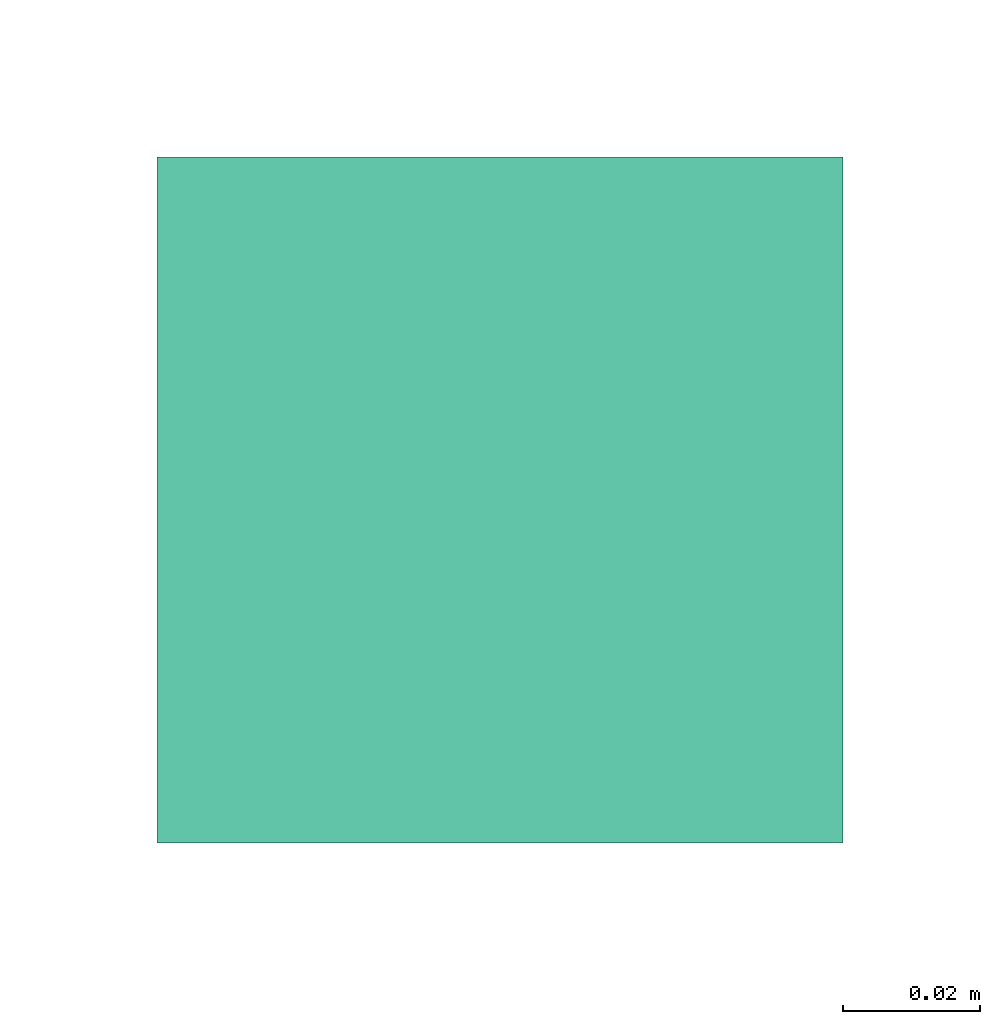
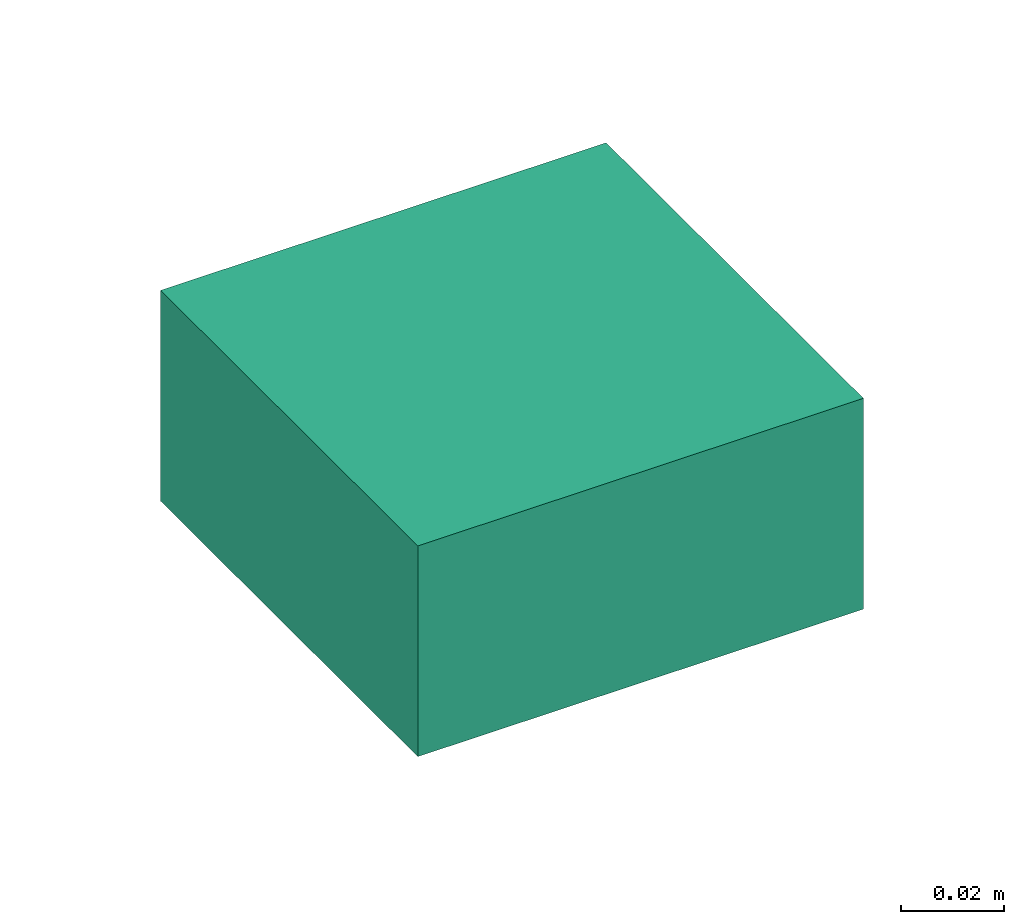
# One storey, part 6 of 14: 1 flow terminal.
"""IFC2X3 building model written with IfcOpenShell, lengths in millimetres."""

from ifc_helpers import new_model, entity, si_unit, converted_unit, derived_unit, direction, frame, origin_with_axes, place, context, subcontext, project, spatial, open_shell, surface_model, source, transform, mapped, type_object, element, save


model = new_model("IFC2X3")

# Units and contexts
model_context = context("Model", 3, precision=0.01, world=frame((0.0, 4.29681676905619e-09, 0.0)), true_north=direction((4.01073788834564e-13, 1.0)))
plan_context = context("Plan", 3, precision=0.01, world=frame((0.0, 4.29681676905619e-09, 0.0)), true_north=direction((4.01073788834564e-13, 1.0)))
body_context = subcontext(model_context, "Body", "Model", "MODEL_VIEW")
ifc_project = project(units=[converted_unit("PLANEANGLEUNIT", "DEGREE", entity("IfcPositiveLengthMeasure", 0.0174532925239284), si_unit("PLANEANGLEUNIT", "RADIAN"), dimensions=[0, 0, 0, 0, 0, 0, 0]), si_unit("AREAUNIT", "SQUARE_METRE"), si_unit("LENGTHUNIT", "METRE", prefix="MILLI"), si_unit("MASSUNIT", "GRAM", prefix="KILO"), si_unit("POWERUNIT", "WATT"), si_unit("PRESSUREUNIT", "PASCAL", prefix="KILO"), si_unit("FORCEUNIT", "NEWTON", prefix="KILO"), si_unit("ELECTRICVOLTAGEUNIT", "VOLT"), si_unit("ELECTRICCURRENTUNIT", "AMPERE"), si_unit("THERMODYNAMICTEMPERATUREUNIT", "DEGREE_CELSIUS"), si_unit("TIMEUNIT", "SECOND"), si_unit("VOLUMEUNIT", "CUBIC_METRE"), derived_unit("LINEARVELOCITYUNIT", [(si_unit("LENGTHUNIT", "METRE"), 1), (si_unit("TIMEUNIT", "SECOND"), -1)]), derived_unit("VOLUMETRICFLOWRATEUNIT", [(si_unit("VOLUMEUNIT", "CUBIC_METRE"), 1), (si_unit("TIMEUNIT", "SECOND"), -1)]), derived_unit("THERMALTRANSMITTANCEUNIT", [(si_unit("POWERUNIT", "WATT"), 1), (si_unit("THERMODYNAMICTEMPERATUREUNIT", "KELVIN"), -1), (si_unit("AREAUNIT", "SQUARE_METRE"), -1)]), derived_unit("SOUNDPRESSUREUNIT", [(si_unit("PRESSUREUNIT", "PASCAL"), 1)])], contexts=[model_context, plan_context])

# Site, building, storey
site_placement = place(None, frame((0.0, -4.29681676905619e-09, 0.0), z_axis=(0.0, 0.0, 1.0), x_axis=(1.0, 0.0, 0.0)))
site = spatial("IfcSite", under=ifc_project, at=site_placement, Name="ENGM", CompositionType="ELEMENT")
building_placement = place(site_placement, frame((0.0, 4.29681676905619e-09, 0.0), z_axis=(0.0, 0.0, 1.0), x_axis=(1.0, 0.0, 0.0)))
building = spatial("IfcBuilding", under=site, at=building_placement, Name="TG", CompositionType="ELEMENT")
storey_placement = place(building_placement, frame((0.0, 0.0, 205200.0), z_axis=(0.0, 0.0, 1.0), x_axis=(1.0, 0.0, 0.0)))
storey = spatial("IfcBuildingStorey", under=building, at=storey_placement, Name="Nivå D + 1,2", CompositionType="ELEMENT", Elevation=205200.0)

# Flow terminal
electric_appliance_type = type_object("IfcElectricApplianceType", Name="Other_E-Dummy-EE", PredefinedType="NOTDEFINED")
shared_shape = source(origin_with_axes(), body_context, "Body", "SurfaceModel", [
    surface_model("IfcShellBasedSurfaceModel", [(-50.0, 50.0, 50.0), (-50.0, -50.0, 50.0), (50.0, -50.0, 50.0), (50.0, 50.0, 50.0), (50.0, -50.0, 0.0), (-50.0, -50.0, 0.0), (-50.0, 50.0, 0.0), (50.0, 50.0, 0.0)], [open_shell([[[0, 1, 2]], [[2, 3, 0]], [[4, 5, 6]], [[6, 7, 4]], [[3, 7, 6]], [[6, 0, 3]], [[0, 6, 5]], [[5, 1, 0]], [[1, 5, 4]], [[4, 2, 1]], [[2, 4, 7]], [[7, 3, 2]]])]),
])
flow_terminal_placement = place(storey_placement, frame((334771.73254, 463956.45919, 4542.0), z_axis=(0.0, 0.0, 1.0), x_axis=(-1.0, 0.0, 0.0)))
element("IfcFlowTerminal", 1, at=flow_terminal_placement, inside=storey, type_object=electric_appliance_type, Name="Other_E-Dummy-EE", context=body_context, shape_type="MappedRepresentation", body=[
    mapped(shared_shape, transform((0.0, 0.0, 0.0), scale=1.0)),
])

save(model, "model.ifc")
